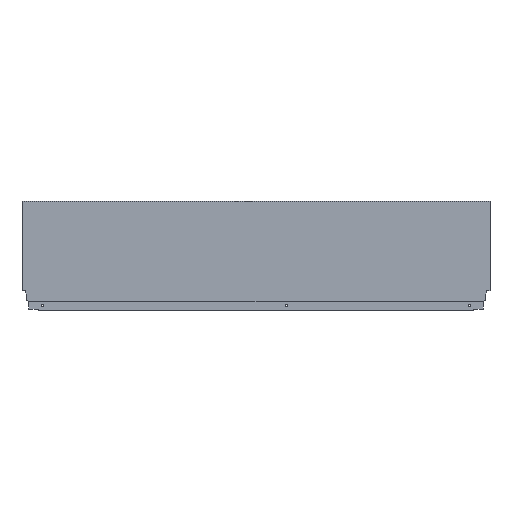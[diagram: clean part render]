
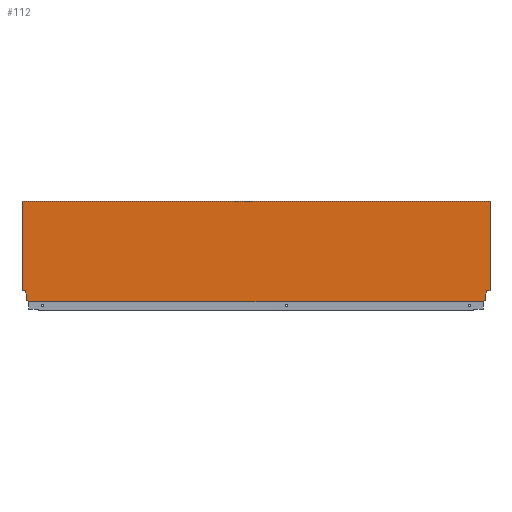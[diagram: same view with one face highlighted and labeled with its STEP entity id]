
A CAD part, top view. The second image highlights one B-rep face of the part: STEP entity #112.
In plain terms, the highlighted planar face has unit normal (0, 0, 1).
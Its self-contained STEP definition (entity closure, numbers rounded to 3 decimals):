
#41 = LINE ( 'NONE', #398, #42 ) ;
#42 = VECTOR ( 'NONE', #397, 1000. ) ;
#45 = LINE ( 'NONE', #163, #46 ) ;
#46 = VECTOR ( 'NONE', #165, 1000. ) ;
#49 = LINE ( 'NONE', #167, #50 ) ;
#50 = VECTOR ( 'NONE', #273, 1000. ) ;
#51 = LINE ( 'NONE', #274, #52 ) ;
#52 = VECTOR ( 'NONE', #275, 1000. ) ;
#53 = LINE ( 'NONE', #160, #54 ) ;
#54 = VECTOR ( 'NONE', #161, 1000. ) ;
#55 = LINE ( 'NONE', #162, #56 ) ;
#56 = VECTOR ( 'NONE', #393, 1000. ) ;
#57 = LINE ( 'NONE', #392, #58 ) ;
#58 = VECTOR ( 'NONE', #385, 1000. ) ;
#65 = LINE ( 'NONE', #301, #66 ) ;
#66 = VECTOR ( 'NONE', #300, 1000. ) ;
#67 = LINE ( 'NONE', #373, #68 ) ;
#68 = VECTOR ( 'NONE', #374, 1000. ) ;
#74 = LINE ( 'NONE', #295, #75 ) ;
#75 = VECTOR ( 'NONE', #293, 1000. ) ;
#76 = LINE ( 'NONE', #291, #77 ) ;
#77 = VECTOR ( 'NONE', #289, 1000. ) ;
#80 = LINE ( 'NONE', #414, #81 ) ;
#81 = VECTOR ( 'NONE', #413, 1000. ) ;
#100 = EDGE_CURVE ( 'NONE', #685, #687, #1026, .T. ) ;
#103 = EDGE_CURVE ( 'NONE', #873, #665, #1024, .T. ) ;
#112 = ADVANCED_FACE ( 'NONE', ( #1345 ), #948, .T. ) ;
#160 = CARTESIAN_POINT ( 'NONE',  ( -7.06, 21.2, 7.5 ) ) ;
#161 = DIRECTION ( 'NONE',  ( -0.174, -0.985, 0. ) ) ;
#162 = CARTESIAN_POINT ( 'NONE',  ( -8.9, 2.64, 7.5 ) ) ;
#163 = CARTESIAN_POINT ( 'NONE',  ( 0., 21.2, 7.5 ) ) ;
#165 = DIRECTION ( 'NONE',  ( -1., 0., 0. ) ) ;
#167 = CARTESIAN_POINT ( 'NONE',  ( -8.9, 10.765, 7.5 ) ) ;
#219 = CARTESIAN_POINT ( 'NONE',  ( 0., 196.7, 7.5 ) ) ;
#224 = CARTESIAN_POINT ( 'NONE',  ( -917., 21.2, 7.5 ) ) ;
#225 = CARTESIAN_POINT ( 'NONE',  ( -903.996, 0., 7.5 ) ) ;
#273 = DIRECTION ( 'NONE',  ( 0., -1., 0. ) ) ;
#274 = CARTESIAN_POINT ( 'NONE',  ( 0., 0., 7.5 ) ) ;
#275 = DIRECTION ( 'NONE',  ( 0., -1., 0. ) ) ;
#283 = CARTESIAN_POINT ( 'NONE',  ( -908.1, 2.64, 7.5 ) ) ;
#289 = DIRECTION ( 'NONE',  ( 0., 1., 0. ) ) ;
#291 = CARTESIAN_POINT ( 'NONE',  ( -903.996, 1.146, 7.5 ) ) ;
#293 = DIRECTION ( 'NONE',  ( -0.174, 0.985, 0. ) ) ;
#295 = CARTESIAN_POINT ( 'NONE',  ( -909.94, 21.2, 7.5 ) ) ;
#300 = DIRECTION ( 'NONE',  ( 1., 0., 0. ) ) ;
#301 = CARTESIAN_POINT ( 'NONE',  ( -917., 0., 7.5 ) ) ;
#327 = CARTESIAN_POINT ( 'NONE',  ( -917., 196.7, 7.5 ) ) ;
#332 = CARTESIAN_POINT ( 'NONE',  ( -13.004, 1.146, 7.5 ) ) ;
#336 = CARTESIAN_POINT ( 'NONE',  ( -909.94, 21.2, 7.5 ) ) ;
#338 = CARTESIAN_POINT ( 'NONE',  ( 0., 21.2, 7.5 ) ) ;
#342 = CARTESIAN_POINT ( 'NONE',  ( -8.9, 2.64, 7.5 ) ) ;
#344 = CARTESIAN_POINT ( 'NONE',  ( -903.996, 1.146, 7.5 ) ) ;
#354 = CARTESIAN_POINT ( 'NONE',  ( -13.004, 0., 7.5 ) ) ;
#359 = CARTESIAN_POINT ( 'NONE',  ( -7.06, 21.2, 7.5 ) ) ;
#365 = CARTESIAN_POINT ( 'NONE',  ( -8.9, 10.765, 7.5 ) ) ;
#367 = CARTESIAN_POINT ( 'NONE',  ( -908.1, 10.765, 7.5 ) ) ;
#373 = CARTESIAN_POINT ( 'NONE',  ( -917., 0., 7.5 ) ) ;
#374 = DIRECTION ( 'NONE',  ( 0., -1., 0. ) ) ;
#385 = DIRECTION ( 'NONE',  ( 0., -1., 0. ) ) ;
#392 = CARTESIAN_POINT ( 'NONE',  ( -13.004, 1.146, 7.5 ) ) ;
#393 = DIRECTION ( 'NONE',  ( -0.94, -0.342, 0. ) ) ;
#397 = DIRECTION ( 'NONE',  ( 1., 0., 0. ) ) ;
#398 = CARTESIAN_POINT ( 'NONE',  ( -917., 196.7, 7.5 ) ) ;
#413 = DIRECTION ( 'NONE',  ( -0.94, 0.342, 0. ) ) ;
#414 = CARTESIAN_POINT ( 'NONE',  ( -908.1, 2.64, 7.5 ) ) ;
#537 = EDGE_CURVE ( 'NONE', #876, #950, #41, .T. ) ;
#539 = EDGE_CURVE ( 'NONE', #854, #758, #45, .T. ) ;
#541 = EDGE_CURVE ( 'NONE', #775, #785, #49, .T. ) ;
#542 = EDGE_CURVE ( 'NONE', #950, #854, #51, .T. ) ;
#543 = EDGE_CURVE ( 'NONE', #758, #775, #53, .T. ) ;
#544 = EDGE_CURVE ( 'NONE', #785, #834, #55, .T. ) ;
#545 = EDGE_CURVE ( 'NONE', #834, #728, #57, .T. ) ;
#554 = AXIS2_PLACEMENT_3D ( 'NONE', #943, #935, #934 ) ;
#665 = VERTEX_POINT ( 'NONE', #224 ) ;
#680 = VERTEX_POINT ( 'NONE', #225 ) ;
#685 = VERTEX_POINT ( 'NONE', #283 ) ;
#687 = VERTEX_POINT ( 'NONE', #367 ) ;
#690 = VERTEX_POINT ( 'NONE', #344 ) ;
#728 = VERTEX_POINT ( 'NONE', #354 ) ;
#758 = VERTEX_POINT ( 'NONE', #359 ) ;
#775 = VERTEX_POINT ( 'NONE', #365 ) ;
#785 = VERTEX_POINT ( 'NONE', #342 ) ;
#834 = VERTEX_POINT ( 'NONE', #332 ) ;
#854 = VERTEX_POINT ( 'NONE', #338 ) ;
#873 = VERTEX_POINT ( 'NONE', #336 ) ;
#876 = VERTEX_POINT ( 'NONE', #327 ) ;
#934 = DIRECTION ( 'NONE',  ( 1., 0., 0. ) ) ;
#935 = DIRECTION ( 'NONE',  ( 0., 0., 1. ) ) ;
#943 = CARTESIAN_POINT ( 'NONE',  ( -917., 0., 7.5 ) ) ;
#948 = PLANE ( 'NONE',  #554 ) ;
#950 = VERTEX_POINT ( 'NONE', #219 ) ;
#975 = DIRECTION ( 'NONE',  ( -1., 0., 0. ) ) ;
#981 = DIRECTION ( 'NONE',  ( 0., 1., 0. ) ) ;
#984 = CARTESIAN_POINT ( 'NONE',  ( -922., 21.2, 7.5 ) ) ;
#987 = CARTESIAN_POINT ( 'NONE',  ( -908.1, 10.765, 7.5 ) ) ;
#998 = EDGE_CURVE ( 'NONE', #680, #728, #65, .T. ) ;
#1001 = EDGE_CURVE ( 'NONE', #687, #873, #74, .T. ) ;
#1002 = EDGE_CURVE ( 'NONE', #680, #690, #76, .T. ) ;
#1004 = EDGE_CURVE ( 'NONE', #876, #665, #67, .T. ) ;
#1005 = EDGE_CURVE ( 'NONE', #690, #685, #80, .T. ) ;
#1019 = VECTOR ( 'NONE', #975, 1000. ) ;
#1021 = VECTOR ( 'NONE', #981, 1000. ) ;
#1024 = LINE ( 'NONE', #984, #1019 ) ;
#1026 = LINE ( 'NONE', #987, #1021 ) ;
#1110 = EDGE_LOOP ( 'NONE', ( #1201, #1200, #1199, #1198, #1197, #1196, #1195, #1194, #1193, #1192, #1191, #1190, #1189, #1188 ) ) ;
#1188 = ORIENTED_EDGE ( 'NONE', *, *, #537, .F. ) ;
#1189 = ORIENTED_EDGE ( 'NONE', *, *, #542, .F. ) ;
#1190 = ORIENTED_EDGE ( 'NONE', *, *, #539, .F. ) ;
#1191 = ORIENTED_EDGE ( 'NONE', *, *, #543, .F. ) ;
#1192 = ORIENTED_EDGE ( 'NONE', *, *, #541, .F. ) ;
#1193 = ORIENTED_EDGE ( 'NONE', *, *, #544, .F. ) ;
#1194 = ORIENTED_EDGE ( 'NONE', *, *, #545, .F. ) ;
#1195 = ORIENTED_EDGE ( 'NONE', *, *, #998, .T. ) ;
#1196 = ORIENTED_EDGE ( 'NONE', *, *, #1002, .F. ) ;
#1197 = ORIENTED_EDGE ( 'NONE', *, *, #1005, .F. ) ;
#1198 = ORIENTED_EDGE ( 'NONE', *, *, #100, .F. ) ;
#1199 = ORIENTED_EDGE ( 'NONE', *, *, #1001, .F. ) ;
#1200 = ORIENTED_EDGE ( 'NONE', *, *, #103, .F. ) ;
#1201 = ORIENTED_EDGE ( 'NONE', *, *, #1004, .T. ) ;
#1345 = FACE_OUTER_BOUND ( 'NONE', #1110, .T. ) ;
